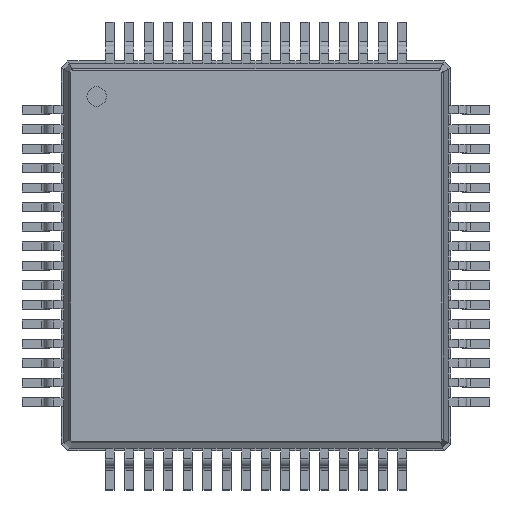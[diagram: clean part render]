
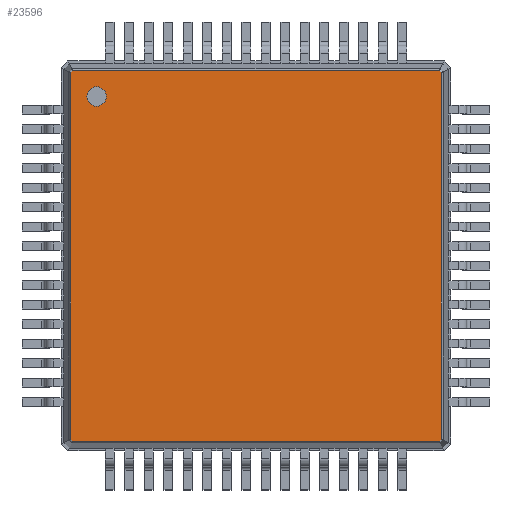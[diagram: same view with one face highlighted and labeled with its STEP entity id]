
A CAD part, top view. The second image highlights one B-rep face of the part: STEP entity #23596.
In plain terms, the highlighted planar face has unit normal (0, 0, 1).
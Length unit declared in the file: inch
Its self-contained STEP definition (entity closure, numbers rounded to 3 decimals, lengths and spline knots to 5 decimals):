
#137 = CARTESIAN_POINT ( 'NONE',  ( 0.18686, -0.18513, 0.05906 ) ) ;
#766 = CARTESIAN_POINT ( 'NONE',  ( -0.18686, 0.18513, 0.05906 ) ) ;
#858 = CARTESIAN_POINT ( 'NONE',  ( -0.18576, 0.18846, 0.05906 ) ) ;
#873 = ORIENTED_EDGE ( 'NONE', *, *, #6325, .F. ) ;
#901 = ORIENTED_EDGE ( 'NONE', *, *, #28344, .F. ) ;
#1191 = EDGE_CURVE ( 'NONE', #17722, #30357, #33115, .T. ) ;
#1404 = CARTESIAN_POINT ( 'NONE',  ( 0.18513, -0.18686, 0.05906 ) ) ;
#3009 = CARTESIAN_POINT ( 'NONE',  ( 0.18686, 0.18513, 0.05906 ) ) ;
#3157 = B_SPLINE_CURVE_WITH_KNOTS ( 'NONE', 2,
 ( #16316, #3971, #766 ),
 .UNSPECIFIED., .F., .F.,
 ( 3, 3 ),
 ( 0.01605, 9.42078 ),
 .UNSPECIFIED. ) ;
#3647 = EDGE_CURVE ( 'NONE', #21674, #20281, #22526, .T. ) ;
#3732 = CARTESIAN_POINT ( 'NONE',  ( 0.186, 0.186, 0.05906 ) ) ;
#3971 = CARTESIAN_POINT ( 'NONE',  ( -0.18686, 0., 0.05906 ) ) ;
#4412 = B_SPLINE_CURVE_WITH_KNOTS ( 'NONE', 2,
 ( #13600, #31647, #23708 ),
 .UNSPECIFIED., .F., .F.,
 ( 3, 3 ),
 ( 0.01728, 0.07948 ),
 .UNSPECIFIED. ) ;
#4592 = B_SPLINE_CURVE_WITH_KNOTS ( 'NONE', 2,
 ( #8980, #3732, #16583 ),
 .UNSPECIFIED., .F., .F.,
 ( 3, 3 ),
 ( 0.01728, 0.07948 ),
 .UNSPECIFIED. ) ;
#4941 = CARTESIAN_POINT ( 'NONE',  ( -0.18513, -0.18686, 0.05906 ) ) ;
#5392 = CARTESIAN_POINT ( 'NONE',  ( -0.18513, -0.18686, 0.05906 ) ) ;
#5508 = ORIENTED_EDGE ( 'NONE', *, *, #25458, .F. ) ;
#5919 = DIRECTION ( 'NONE',  ( 0., 0., 1. ) ) ;
#6288 = VERTEX_POINT ( 'NONE', #11074 ) ;
#6325 = EDGE_CURVE ( 'NONE', #13762, #17722, #4412, .T. ) ;
#7057 = ORIENTED_EDGE ( 'NONE', *, *, #29394, .F. ) ;
#7238 = B_SPLINE_CURVE_WITH_KNOTS ( 'NONE', 2,
 ( #13517, #30909, #21113 ),
 .UNSPECIFIED., .F., .F.,
 ( 3, 3 ),
 ( 0.01728, 0.07948 ),
 .UNSPECIFIED. ) ;
#7490 = CARTESIAN_POINT ( 'NONE',  ( -0.1609, 0.15106, 0.05906 ) ) ;
#8533 = ORIENTED_EDGE ( 'NONE', *, *, #3647, .F. ) ;
#8618 = PLANE ( 'NONE',  #19561 ) ;
#8980 = CARTESIAN_POINT ( 'NONE',  ( 0.18513, 0.18686, 0.05906 ) ) ;
#9192 = EDGE_LOOP ( 'NONE', ( #32193, #873, #7057, #901, #5508, #10989, #30687, #17038 ) ) ;
#10032 = VERTEX_POINT ( 'NONE', #5392 ) ;
#10989 = ORIENTED_EDGE ( 'NONE', *, *, #23326, .F. ) ;
#11074 = CARTESIAN_POINT ( 'NONE',  ( 0.18686, 0.18513, 0.05906 ) ) ;
#12097 = DIRECTION ( 'NONE',  ( 0., -1., 0. ) ) ;
#12113 = CIRCLE ( 'NONE', #30956, 0.00984 ) ;
#12338 = CARTESIAN_POINT ( 'NONE',  ( 0., 0.18686, 0.05906 ) ) ;
#12777 = B_SPLINE_CURVE_WITH_KNOTS ( 'NONE', 2,
 ( #3009, #23274, #137 ),
 .UNSPECIFIED., .F., .F.,
 ( 3, 3 ),
 ( 0.01605, 9.42078 ),
 .UNSPECIFIED. ) ;
#13517 = CARTESIAN_POINT ( 'NONE',  ( -0.18513, -0.18686, 0.05906 ) ) ;
#13600 = CARTESIAN_POINT ( 'NONE',  ( -0.18686, 0.18513, 0.05906 ) ) ;
#13762 = VERTEX_POINT ( 'NONE', #26794 ) ;
#14406 = VERTEX_POINT ( 'NONE', #20440 ) ;
#14574 = CARTESIAN_POINT ( 'NONE',  ( 0.186, -0.186, 0.05906 ) ) ;
#14790 = CARTESIAN_POINT ( 'NONE',  ( -0.1609, 0.1609, 0.05906 ) ) ;
#15987 = AXIS2_PLACEMENT_3D ( 'NONE', #30716, #28203, #33424 ) ;
#16316 = CARTESIAN_POINT ( 'NONE',  ( -0.18686, -0.18513, 0.05906 ) ) ;
#16583 = CARTESIAN_POINT ( 'NONE',  ( 0.18686, 0.18513, 0.05906 ) ) ;
#16774 = CARTESIAN_POINT ( 'NONE',  ( 0.18686, -0.18513, 0.05906 ) ) ;
#16907 = VERTEX_POINT ( 'NONE', #29985 ) ;
#17038 = ORIENTED_EDGE ( 'NONE', *, *, #25556, .F. ) ;
#17722 = VERTEX_POINT ( 'NONE', #25165 ) ;
#17954 = CARTESIAN_POINT ( 'NONE',  ( 0., -0.18686, 0.05906 ) ) ;
#18284 = VERTEX_POINT ( 'NONE', #28777 ) ;
#18425 = FACE_BOUND ( 'NONE', #19908, .T. ) ;
#19561 = AXIS2_PLACEMENT_3D ( 'NONE', #858, #5919, #26703 ) ;
#19770 = CARTESIAN_POINT ( 'NONE',  ( -0.18513, 0.18686, 0.05906 ) ) ;
#19908 = EDGE_LOOP ( 'NONE', ( #8533, #26627 ) ) ;
#20042 = CARTESIAN_POINT ( 'NONE',  ( 0.18513, 0.18686, 0.05906 ) ) ;
#20281 = VERTEX_POINT ( 'NONE', #26892 ) ;
#20440 = CARTESIAN_POINT ( 'NONE',  ( -0.18686, -0.18513, 0.05906 ) ) ;
#21003 = EDGE_CURVE ( 'NONE', #6288, #18284, #12777, .T. ) ;
#21113 = CARTESIAN_POINT ( 'NONE',  ( -0.18686, -0.18513, 0.05906 ) ) ;
#21307 = FACE_OUTER_BOUND ( 'NONE', #9192, .T. ) ;
#21674 = VERTEX_POINT ( 'NONE', #7490 ) ;
#22526 = CIRCLE ( 'NONE', #15987, 0.00984 ) ;
#22626 = CARTESIAN_POINT ( 'NONE',  ( 0.18513, 0.18686, 0.05906 ) ) ;
#23274 = CARTESIAN_POINT ( 'NONE',  ( 0.18686, 0., 0.05906 ) ) ;
#23326 = EDGE_CURVE ( 'NONE', #18284, #16907, #24279, .T. ) ;
#23596 = ADVANCED_FACE ( 'NONE', ( #18425, #21307 ), #8618, .T. ) ;
#23708 = CARTESIAN_POINT ( 'NONE',  ( -0.18513, 0.18686, 0.05906 ) ) ;
#24279 = B_SPLINE_CURVE_WITH_KNOTS ( 'NONE', 2,
 ( #16774, #14574, #1404 ),
 .UNSPECIFIED., .F., .F.,
 ( 3, 3 ),
 ( 0.01728, 0.07948 ),
 .UNSPECIFIED. ) ;
#25165 = CARTESIAN_POINT ( 'NONE',  ( -0.18513, 0.18686, 0.05906 ) ) ;
#25237 = DIRECTION ( 'NONE',  ( 0., 0., 1. ) ) ;
#25458 = EDGE_CURVE ( 'NONE', #16907, #10032, #32748, .T. ) ;
#25556 = EDGE_CURVE ( 'NONE', #30357, #6288, #4592, .T. ) ;
#26390 = EDGE_CURVE ( 'NONE', #20281, #21674, #12113, .T. ) ;
#26627 = ORIENTED_EDGE ( 'NONE', *, *, #26390, .F. ) ;
#26703 = DIRECTION ( 'NONE',  ( 1., 0., 0. ) ) ;
#26794 = CARTESIAN_POINT ( 'NONE',  ( -0.18686, 0.18513, 0.05906 ) ) ;
#26892 = CARTESIAN_POINT ( 'NONE',  ( -0.1609, 0.17074, 0.05906 ) ) ;
#28062 = CARTESIAN_POINT ( 'NONE',  ( 0.18513, -0.18686, 0.05906 ) ) ;
#28203 = DIRECTION ( 'NONE',  ( 0., 0., 1. ) ) ;
#28344 = EDGE_CURVE ( 'NONE', #10032, #14406, #7238, .T. ) ;
#28777 = CARTESIAN_POINT ( 'NONE',  ( 0.18686, -0.18513, 0.05906 ) ) ;
#29394 = EDGE_CURVE ( 'NONE', #14406, #13762, #3157, .T. ) ;
#29985 = CARTESIAN_POINT ( 'NONE',  ( 0.18513, -0.18686, 0.05906 ) ) ;
#30357 = VERTEX_POINT ( 'NONE', #20042 ) ;
#30687 = ORIENTED_EDGE ( 'NONE', *, *, #21003, .F. ) ;
#30716 = CARTESIAN_POINT ( 'NONE',  ( -0.1609, 0.1609, 0.05906 ) ) ;
#30909 = CARTESIAN_POINT ( 'NONE',  ( -0.186, -0.186, 0.05906 ) ) ;
#30956 = AXIS2_PLACEMENT_3D ( 'NONE', #14790, #25237, #12097 ) ;
#31647 = CARTESIAN_POINT ( 'NONE',  ( -0.186, 0.186, 0.05906 ) ) ;
#32193 = ORIENTED_EDGE ( 'NONE', *, *, #1191, .F. ) ;
#32748 = B_SPLINE_CURVE_WITH_KNOTS ( 'NONE', 2,
 ( #28062, #17954, #4941 ),
 .UNSPECIFIED., .F., .F.,
 ( 3, 3 ),
 ( 0.01605, 9.42078 ),
 .UNSPECIFIED. ) ;
#33115 = B_SPLINE_CURVE_WITH_KNOTS ( 'NONE', 2,
 ( #19770, #12338, #22626 ),
 .UNSPECIFIED., .F., .F.,
 ( 3, 3 ),
 ( 0.01605, 9.42078 ),
 .UNSPECIFIED. ) ;
#33424 = DIRECTION ( 'NONE',  ( 0., -1., 0. ) ) ;
